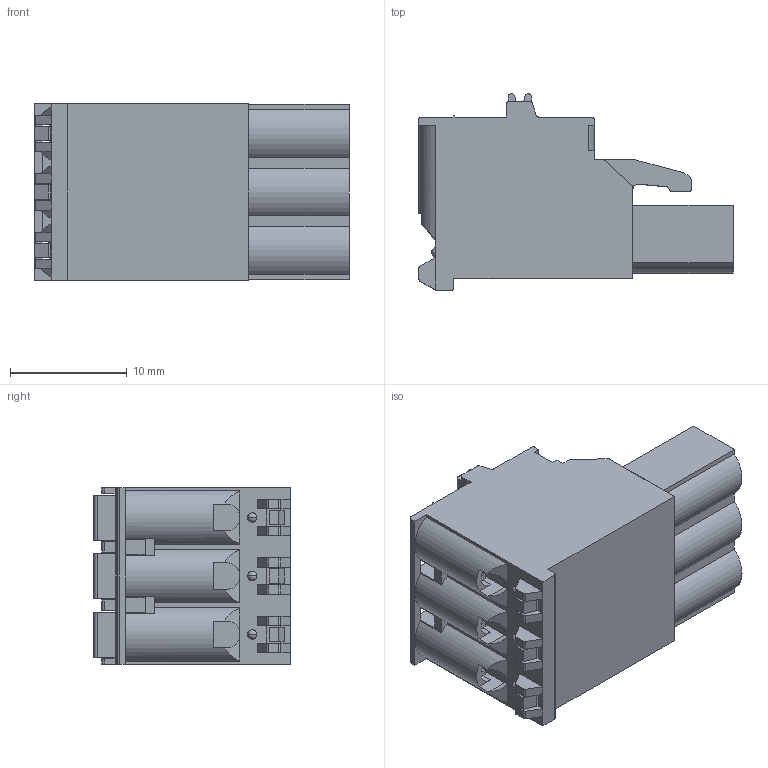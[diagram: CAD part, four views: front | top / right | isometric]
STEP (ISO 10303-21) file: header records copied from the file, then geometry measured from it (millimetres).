
FILE_DESCRIPTION((''),'2;1');
FILE_NAME('3PIN_SW0001','2019-05-28T',('zhenbing.lai'),(''),'CREO PARAMETRIC BY PTC INC, 2016260','CREO PARAMETRIC BY PTC INC, 2016260','');
FILE_SCHEMA(('CONFIG_CONTROL_DESIGN'));
Length unit declared in the file: millimetre
Products named in the file (1): 3PIN_SW0001
Bounding box: 26.9 x 16.8 x 15.1 mm (x, y, z)
Volume: 3870.5 mm3; surface area: 2639.8 mm2
Topology: 1 solids, 1 shells, 442 faces, 1277 edges, 845 vertices
Faces by surface type: plane 294, cylinder 121, cone 15, bspline 6, sphere 6
Entity records: 14826 total; most frequent: CARTESIAN_POINT 2942, ORIENTED_EDGE 2542, DIRECTION 2417, EDGE_CURVE 1271, VECTOR 919, LINE 919, VERTEX_POINT 845, AXIS2_PLACEMENT_3D 749
